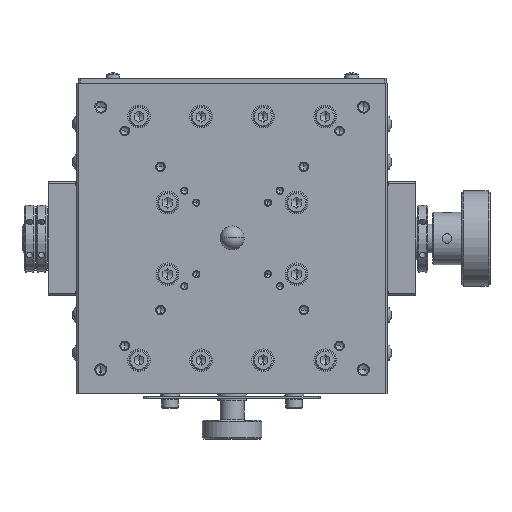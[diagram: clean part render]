
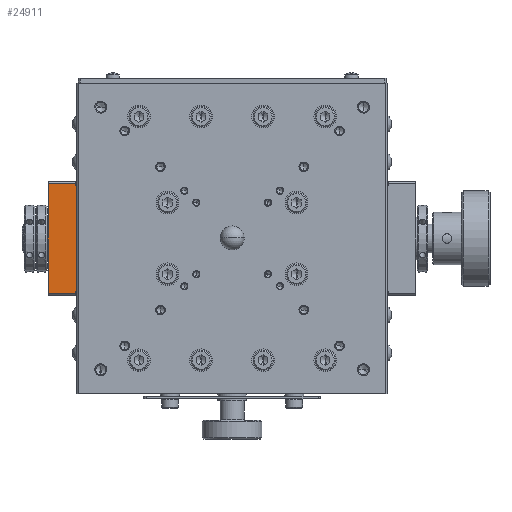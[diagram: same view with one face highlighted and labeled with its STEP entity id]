
A CAD part, top view. The second image highlights one B-rep face of the part: STEP entity #24911.
In plain terms, the highlighted planar face has unit normal (0, 0, 1).
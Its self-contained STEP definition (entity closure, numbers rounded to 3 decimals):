
#18547 = VERTEX_POINT ( 'NONE', #32580 ) ;
#18549 = EDGE_CURVE ( 'NONE', #18550, #18547, #32579, .T. ) ;
#18550 = VERTEX_POINT ( 'NONE', #32575 ) ;
#24706 = VERTEX_POINT ( 'NONE', #54332 ) ;
#24724 = EDGE_CURVE ( 'NONE', #18547, #24734, #54362, .T. ) ;
#24733 = EDGE_CURVE ( 'NONE', #24734, #24735, #54353, .T. ) ;
#24734 = VERTEX_POINT ( 'NONE', #54344 ) ;
#24735 = VERTEX_POINT ( 'NONE', #54343 ) ;
#24779 = EDGE_CURVE ( 'NONE', #18550, #24787, #54402, .T. ) ;
#24786 = EDGE_CURVE ( 'NONE', #24787, #24706, #54456, .T. ) ;
#24787 = VERTEX_POINT ( 'NONE', #54447 ) ;
#24825 = EDGE_CURVE ( 'NONE', #24706, #24826, #54463, .T. ) ;
#24826 = VERTEX_POINT ( 'NONE', #54522 ) ;
#24896 = EDGE_CURVE ( 'NONE', #24826, #24897, #54556, .T. ) ;
#24897 = VERTEX_POINT ( 'NONE', #54621 ) ;
#24911 = ADVANCED_FACE ( 'NONE', ( #54605 ), #54601, .T. ) ;
#24912 = EDGE_LOOP ( 'NONE', ( #24913, #24914, #24915, #24916, #24917, #24918, #24919, #24974 ) ) ;
#24913 = ORIENTED_EDGE ( 'NONE', *, *, #18549, .T. ) ;
#24914 = ORIENTED_EDGE ( 'NONE', *, *, #24724, .T. ) ;
#24915 = ORIENTED_EDGE ( 'NONE', *, *, #24733, .T. ) ;
#24916 = ORIENTED_EDGE ( 'NONE', *, *, #24929, .T. ) ;
#24917 = ORIENTED_EDGE ( 'NONE', *, *, #24896, .F. ) ;
#24918 = ORIENTED_EDGE ( 'NONE', *, *, #24825, .F. ) ;
#24919 = ORIENTED_EDGE ( 'NONE', *, *, #24786, .F. ) ;
#24929 = EDGE_CURVE ( 'NONE', #24735, #24897, #54651, .T. ) ;
#24974 = ORIENTED_EDGE ( 'NONE', *, *, #24779, .F. ) ;
#32575 = CARTESIAN_POINT ( 'NONE',  ( -65., -22., 36. ) ) ;
#32576 = DIRECTION ( 'NONE',  ( 0., 1., 0. ) ) ;
#32577 = VECTOR ( 'NONE', #32576, 1000. ) ;
#32578 = CARTESIAN_POINT ( 'NONE',  ( -65., -23., 36. ) ) ;
#32579 = LINE ( 'NONE', #32578, #32577 ) ;
#32580 = CARTESIAN_POINT ( 'NONE',  ( -65., 22., 36. ) ) ;
#54332 = CARTESIAN_POINT ( 'NONE',  ( -65.5, -23., 36. ) ) ;
#54343 = CARTESIAN_POINT ( 'NONE',  ( -65.5, 23., 36. ) ) ;
#54344 = CARTESIAN_POINT ( 'NONE',  ( -65.5, 22., 36. ) ) ;
#54345 = DIRECTION ( 'NONE',  ( 0., 1., 0. ) ) ;
#54346 = VECTOR ( 'NONE', #54345, 1000. ) ;
#54347 = CARTESIAN_POINT ( 'NONE',  ( -65.5, -23., 36. ) ) ;
#54353 = LINE ( 'NONE', #54347, #54346 ) ;
#54359 = DIRECTION ( 'NONE',  ( -1., 0., 0. ) ) ;
#54360 = VECTOR ( 'NONE', #54359, 1000. ) ;
#54361 = CARTESIAN_POINT ( 'NONE',  ( -65., 22., 36. ) ) ;
#54362 = LINE ( 'NONE', #54361, #54360 ) ;
#54394 = DIRECTION ( 'NONE',  ( -1., 0., 0. ) ) ;
#54395 = VECTOR ( 'NONE', #54394, 1000. ) ;
#54396 = CARTESIAN_POINT ( 'NONE',  ( -65., -22., 36. ) ) ;
#54402 = LINE ( 'NONE', #54396, #54395 ) ;
#54447 = CARTESIAN_POINT ( 'NONE',  ( -65.5, -22., 36. ) ) ;
#54448 = DIRECTION ( 'NONE',  ( 0., -1., 0. ) ) ;
#54449 = VECTOR ( 'NONE', #54448, 1000. ) ;
#54450 = CARTESIAN_POINT ( 'NONE',  ( -65.5, -23., 36. ) ) ;
#54456 = LINE ( 'NONE', #54450, #54449 ) ;
#54462 = CARTESIAN_POINT ( 'NONE',  ( -65., -23., 36. ) ) ;
#54463 = LINE ( 'NONE', #54462, #54524 ) ;
#54522 = CARTESIAN_POINT ( 'NONE',  ( -77., -23., 36. ) ) ;
#54523 = DIRECTION ( 'NONE',  ( -1., 0., 0. ) ) ;
#54524 = VECTOR ( 'NONE', #54523, 1000. ) ;
#54556 = LINE ( 'NONE', #54624, #54623 ) ;
#54596 = DIRECTION ( 'NONE',  ( 1., 0., 0. ) ) ;
#54597 = DIRECTION ( 'NONE',  ( 0., 0., 1. ) ) ;
#54598 = CARTESIAN_POINT ( 'NONE',  ( -65., -23., 36. ) ) ;
#54600 = AXIS2_PLACEMENT_3D ( 'NONE', #54598, #54597, #54596 ) ;
#54601 = PLANE ( 'NONE',  #54600 ) ;
#54605 = FACE_OUTER_BOUND ( 'NONE', #24912, .T. ) ;
#54621 = CARTESIAN_POINT ( 'NONE',  ( -77., 23., 36. ) ) ;
#54622 = DIRECTION ( 'NONE',  ( 0., 1., 0. ) ) ;
#54623 = VECTOR ( 'NONE', #54622, 1000. ) ;
#54624 = CARTESIAN_POINT ( 'NONE',  ( -77., -23., 36. ) ) ;
#54643 = DIRECTION ( 'NONE',  ( -1., 0., 0. ) ) ;
#54644 = VECTOR ( 'NONE', #54643, 1000. ) ;
#54645 = CARTESIAN_POINT ( 'NONE',  ( -65., 23., 36. ) ) ;
#54651 = LINE ( 'NONE', #54645, #54644 ) ;
